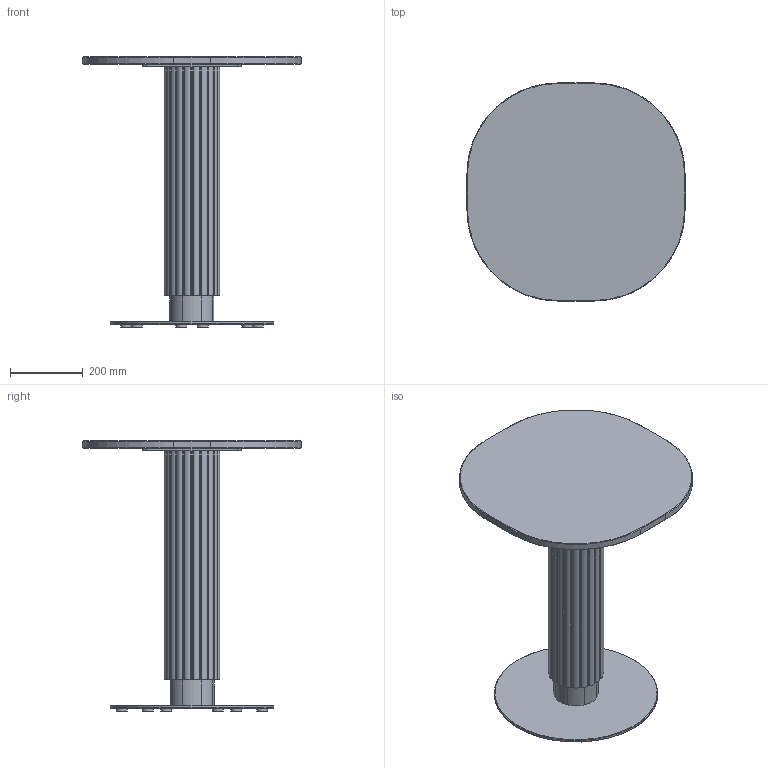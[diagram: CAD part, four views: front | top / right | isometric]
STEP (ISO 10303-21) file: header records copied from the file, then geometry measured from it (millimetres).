
FILE_DESCRIPTION( ('This file contains a STEP AP42 implementation' ,'as created by ZW3D STEP Interface translator.') ,'2;1' );
FILE_NAME( 'God - B_Rond - F2 - M1 - 600 x 600 x 750.stp' ,'24 912.114339', (''), ('ZWCAD Software Co.'), 'Version 1.0', 'ZW3D to STEP translator', '' );
FILE_SCHEMA(('AUTOMOTIVE_DESIGN { 1 0 10303 214 1 1 1 1 }'));
Length unit declared in the file: millimetre
Products named in the file (15): 0; PIED BISTROT PARAMETRIQUE_; SOCLE ACIER C Ø450 V.02_; SCL-D450-02_; PLA-R30A-01_; PLA-R30A-01; CROIX ACIER 370 V.02_; CRX-X370-02_; COLONNE ACIER Ø48.5 V.02_; TUB-D048-02_; PLA-R48A-01_; Colonne GODRON H700_; WUERTH 0276063020 Euro-screw 6.3x2 Verzinkt_; PLATEAU BISTROT PARAMETRIQUE_; insert_m6_13_
Assembly tree (25 placements, depth 3):
  0
  PIED BISTROT PARAMETRIQUE_
    SOCLE ACIER C Ø450 V.02_
      SCL-D450-02_
      PLA-R30A-01_
      PLA-R30A-01  x5
    CROIX ACIER 370 V.02_
      CRX-X370-02_
    COLONNE ACIER Ø48.5 V.02_
      TUB-D048-02_
      PLA-R48A-01_  x2
    Colonne GODRON H700_
    WUERTH 0276063020 Euro-screw 6.3x2 Verzinkt_
    PLATEAU BISTROT PARAMETRIQUE_
      insert_m6_13_  x8
Bounding box: 600 x 600 x 744 mm (x, y, z)
Volume: 18462875.1 mm3; surface area: 2398238.7 mm2
Topology: 29 solids, 29 shells, 656 faces, 1625 edges, 1042 vertices
Faces by surface type: plane 288, cylinder 193, bspline 127, cone 47, torus 1
Full cylindrical faces by diameter (mm): 4.88 x1, 6 x8, 6.3 x1, 8 x47, 12 x2, 14 x2, 30 x6, 44.5 x3, 48.5 x1, 450 x1
Entity records: 16320 total; most frequent: CARTESIAN_POINT 4187, ORIENTED_EDGE 2240, DIRECTION 2215, EDGE_CURVE 1120, AXIS2_PLACEMENT_3D 786, VERTEX_POINT 728, VECTOR 643, LINE 643
